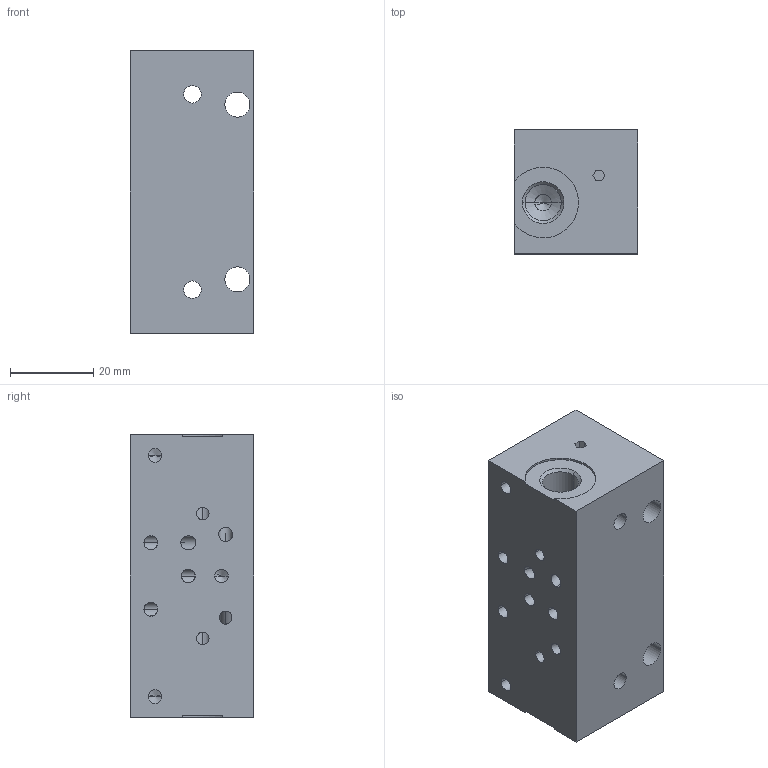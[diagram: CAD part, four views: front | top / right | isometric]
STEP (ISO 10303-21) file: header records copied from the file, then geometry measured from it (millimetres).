
FILE_DESCRIPTION((''),'2;1');
FILE_NAME('0641713_SW0001','2025-07-31T15:44:48',('lpini'),(''),'CREO PARAMETRIC BY PTC INC, 2023374','CREO PARAMETRIC BY PTC INC, 2023374','');
FILE_SCHEMA(('CONFIG_CONTROL_DESIGN'));
Length unit declared in the file: millimetre
Products named in the file (1): 0641713_SW0001
Bounding box: 29.8 x 29.8 x 68 mm (x, y, z)
Volume: 53227.6 mm3; surface area: 15985.8 mm2
Topology: 2 solids, 2 shells, 151 faces, 418 edges, 245 vertices
Faces by surface type: cylinder 70, cone 51, plane 26, sphere 4
Entity records: 6024 total; most frequent: CARTESIAN_POINT 2323, ORIENTED_EDGE 768, DIRECTION 738, EDGE_CURVE 384, AXIS2_PLACEMENT_3D 280, VERTEX_POINT 245, EDGE_LOOP 187, VECTOR 178
